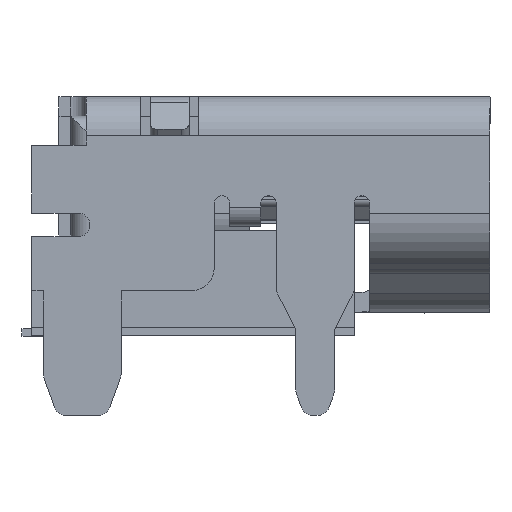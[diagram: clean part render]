
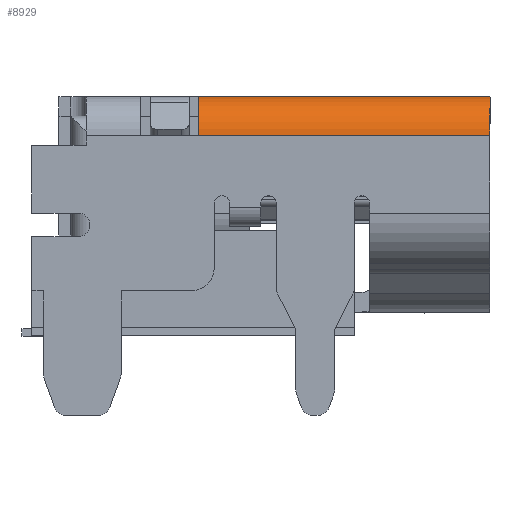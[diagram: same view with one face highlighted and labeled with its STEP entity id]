
A CAD part, left-side view. The second image highlights one B-rep face of the part: STEP entity #8929.
In plain terms, the highlighted cylindrical face has radius 1 mm (diameter 2 mm), a partial arc.
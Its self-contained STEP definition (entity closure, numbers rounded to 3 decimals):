
#7445 = VERTEX_POINT('',#7446);
#7446 = CARTESIAN_POINT('',(-7.5,-8.025,5.075));
#7452 = EDGE_CURVE('',#7453,#7445,#7455,.T.);
#7453 = VERTEX_POINT('',#7454);
#7454 = CARTESIAN_POINT('',(-7.5,-0.525,5.075));
#7455 = LINE('',#7456,#7457);
#7456 = CARTESIAN_POINT('',(-7.5,3.775,5.075));
#7457 = VECTOR('',#7458,1.);
#7458 = DIRECTION('',(0.,-1.,0.));
#8818 = VERTEX_POINT('',#8819);
#8819 = CARTESIAN_POINT('',(-6.5,-8.025,6.075));
#8825 = EDGE_CURVE('',#8818,#7445,#8826,.T.);
#8826 = CIRCLE('',#8827,1.);
#8827 = AXIS2_PLACEMENT_3D('',#8828,#8829,#8830);
#8828 = CARTESIAN_POINT('',(-6.5,-8.025,5.075));
#8829 = DIRECTION('',(0.,-1.,0.));
#8830 = DIRECTION('',(-1.,0.,0.));
#8929 = ADVANCED_FACE('',(#8930),#8949,.T.);
#8930 = FACE_BOUND('',#8931,.T.);
#8931 = EDGE_LOOP('',(#8932,#8941,#8942,#8943));
#8932 = ORIENTED_EDGE('',*,*,#8933,.F.);
#8933 = EDGE_CURVE('',#7453,#8934,#8936,.T.);
#8934 = VERTEX_POINT('',#8935);
#8935 = CARTESIAN_POINT('',(-6.5,-0.525,6.075));
#8936 = CIRCLE('',#8937,1.);
#8937 = AXIS2_PLACEMENT_3D('',#8938,#8939,#8940);
#8938 = CARTESIAN_POINT('',(-6.5,-0.525,5.075));
#8939 = DIRECTION('',(0.,1.,0.));
#8940 = DIRECTION('',(1.,0.,0.));
#8941 = ORIENTED_EDGE('',*,*,#7452,.T.);
#8942 = ORIENTED_EDGE('',*,*,#8825,.F.);
#8943 = ORIENTED_EDGE('',*,*,#8944,.F.);
#8944 = EDGE_CURVE('',#8934,#8818,#8945,.T.);
#8945 = LINE('',#8946,#8947);
#8946 = CARTESIAN_POINT('',(-6.5,3.775,6.075));
#8947 = VECTOR('',#8948,1.);
#8948 = DIRECTION('',(0.,-1.,0.));
#8949 = CYLINDRICAL_SURFACE('',#8950,1.);
#8950 = AXIS2_PLACEMENT_3D('',#8951,#8952,#8953);
#8951 = CARTESIAN_POINT('',(-6.5,3.775,5.075));
#8952 = DIRECTION('',(0.,-1.,0.));
#8953 = DIRECTION('',(1.,0.,0.));
